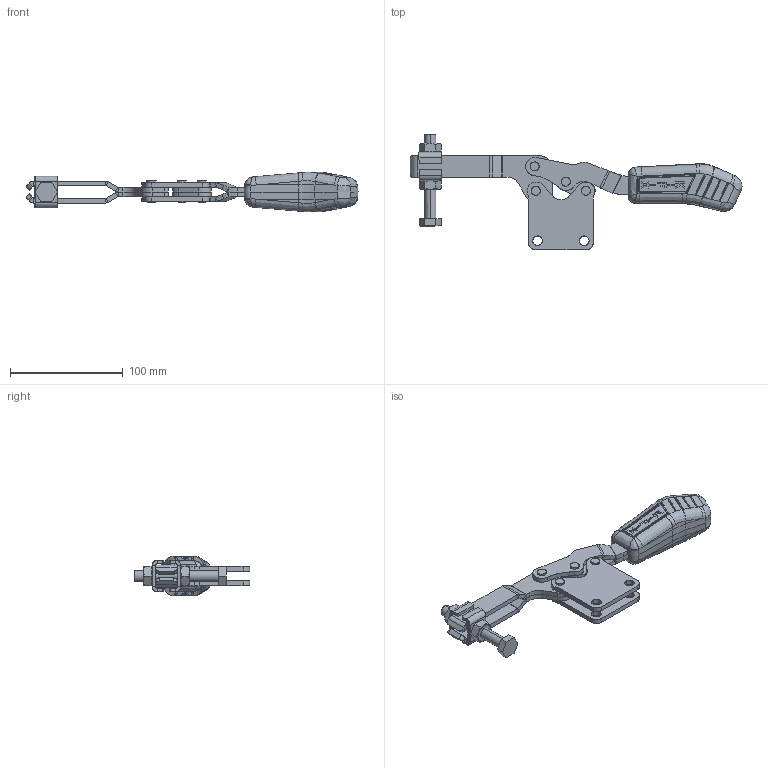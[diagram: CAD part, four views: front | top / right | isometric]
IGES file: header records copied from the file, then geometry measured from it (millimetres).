
Start section: SolidWorks IGES file using analytic representation for surfaces
Global section: file name: C:\Projetos\Grampos\KF-532\KF-532 R\KF-532 R.IGS; native system: SolidWorks 2013; preprocessor: SolidWorks 2013; author: Ricardo; date: 140818.134819; units: millimetre
Bounding box: 294.39 x 102.52 x 35.04 mm (x, y, z)
Surface area: 74490.3 mm2 (no closed solid volume)
Topology: 0 solids, 0 shells, 768 faces, 8360 edges, 8329 vertices
Faces by surface type: bspline 468, revolution 300
